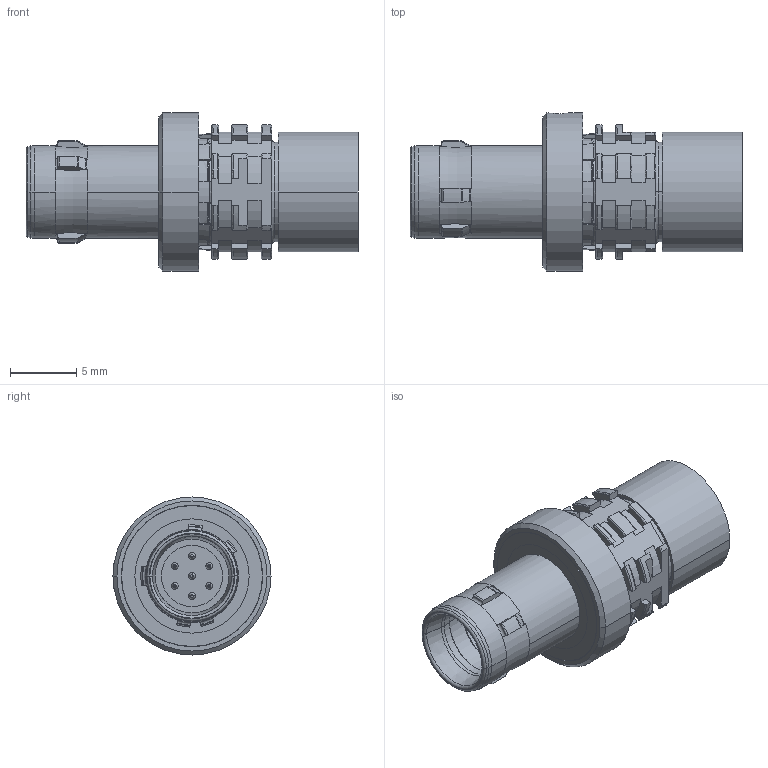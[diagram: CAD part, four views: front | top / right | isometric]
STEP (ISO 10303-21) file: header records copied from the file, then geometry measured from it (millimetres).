
FILE_DESCRIPTION((''),'2;1');
FILE_NAME('A10Y_R-P07XCD0-0000-A','2017-07-27T',('isebastian'),(''),'PRO/ENGINEER BY PARAMETRIC TECHNOLOGY CORPORATION, 2016360','PRO/ENGINEER BY PARAMETRIC TECHNOLOGY CORPORATION, 2016360','');
FILE_SCHEMA(('AUTOMOTIVE_DESIGN { 1 0 10303 214 1 1 1 1 }'));
Length unit declared in the file: millimetre
Products named in the file (1): A10Y_R-P07XCD0-0000-A
Bounding box: 25 x 11.9 x 11.9 mm (x, y, z)
Volume: 1004.1 mm3; surface area: 2232 mm2
Topology: 2 solids, 2 shells, 686 faces, 1805 edges, 1132 vertices
Faces by surface type: cylinder 223, plane 217, torus 133, cone 85, bspline 14, sphere 14
Entity records: 31237 total; most frequent: CARTESIAN_POINT 9899, DIRECTION 3562, ORIENTED_EDGE 3554, EDGE_CURVE 1777, AXIS2_PLACEMENT_3D 1416, VERTEX_POINT 1132, CIRCLE 744, EDGE_LOOP 743
